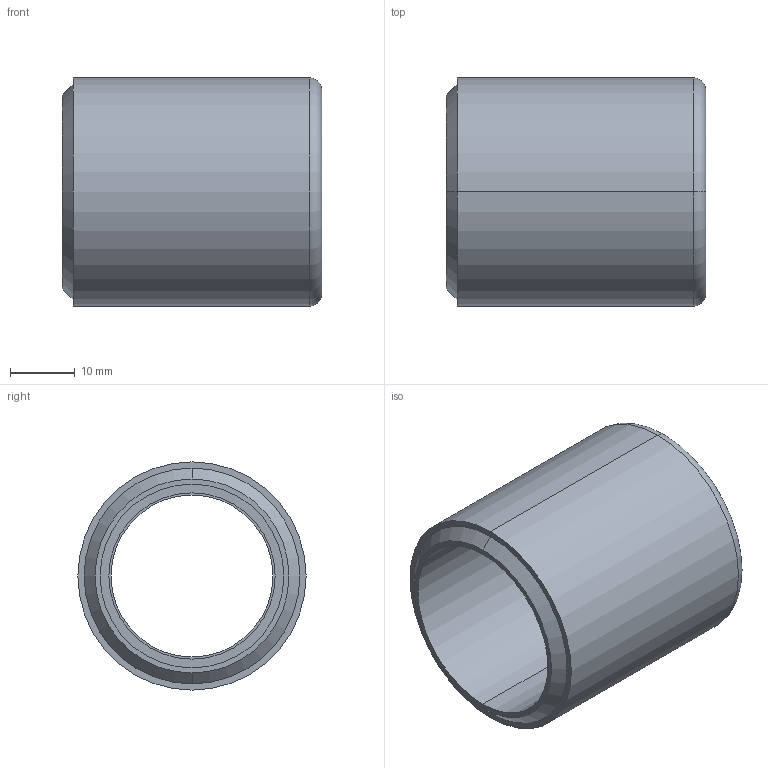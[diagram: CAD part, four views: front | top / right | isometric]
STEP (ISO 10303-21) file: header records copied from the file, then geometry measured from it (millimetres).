
FILE_DESCRIPTION (( 'STEP AP214' ), '1' );
FILE_NAME ('CR-INFV-05-06.STEP', '2020-12-10T16:58:02', ( '' ), ( '' ), 'SwSTEP 2.0', 'SolidWorks 2019', '' );
FILE_SCHEMA (( 'AUTOMOTIVE_DESIGN' ));
Length unit declared in the file: inch
Products named in the file (1): CR-INFV-05-06
Bounding box: 40.05 x 35.2 x 35.2 mm (x, y, z)
Volume: 15573.1 mm3; surface area: 8584 mm2
Topology: 1 solids, 1 shells, 20 faces, 40 edges, 26 vertices
Faces by surface type: cylinder 10, plane 6, cone 2, torus 2
Entity records: 840 total; most frequent: DIRECTION 110, CARTESIAN_POINT 87, ORIENTED_EDGE 80, AXIS2_PLACEMENT_3D 49, EDGE_CURVE 40, CIRCLE 28, VERTEX_POINT 26, EDGE_LOOP 26
